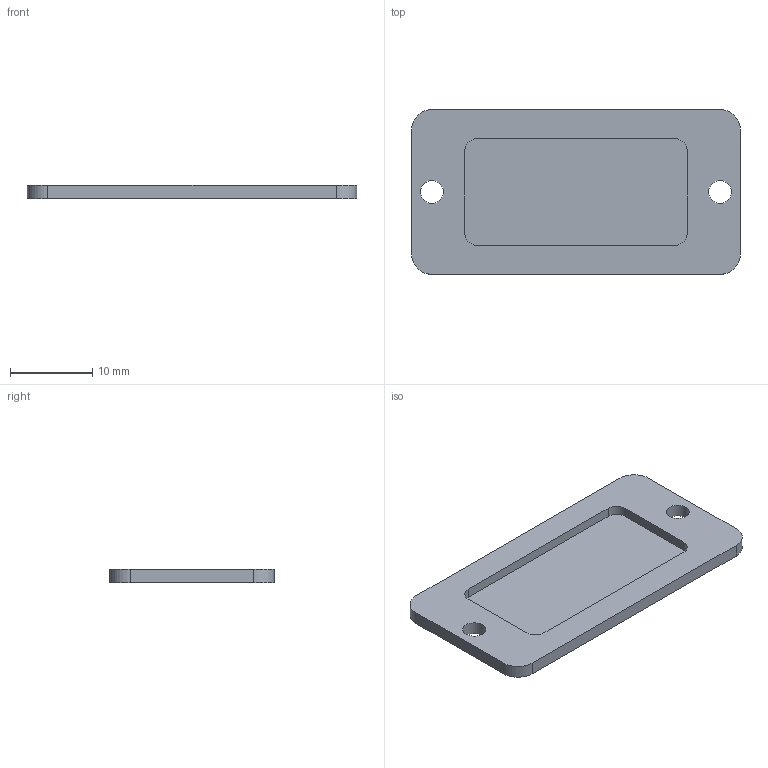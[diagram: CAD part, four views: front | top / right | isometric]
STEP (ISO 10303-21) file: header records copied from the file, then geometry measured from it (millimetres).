
FILE_DESCRIPTION(('Open CASCADE Model'),'2;1');
FILE_NAME('Open CASCADE Shape Model','2026-11-08T21:30:43',('Author'),( 'Open CASCADE'),'Open CASCADE STEP processor 7.8','Open CASCADE 7.8' ,'Unknown');
FILE_SCHEMA(('AUTOMOTIVE_DESIGN { 1 0 10303 214 1 1 1 1 }'));
Length unit declared in the file: millimetre
Products named in the file (1): Open CASCADE STEP translator 7.8 4
Bounding box: 40 x 20 x 1.6 mm (x, y, z)
Volume: 832.8 mm3; surface area: 1870.8 mm2
Topology: 1 solids, 1 shells, 21 faces, 54 edges, 36 vertices
Faces by surface type: plane 11, cylinder 10
Full cylindrical faces by diameter (mm): 2.8 x2
Entity records: 1370 total; most frequent: CARTESIAN_POINT 272, DIRECTION 204, ORIENTED_EDGE 108, PCURVE 108, DEFINITIONAL_REPRESENTATION 108, LINE 106, VECTOR 106, EDGE_CURVE 54
